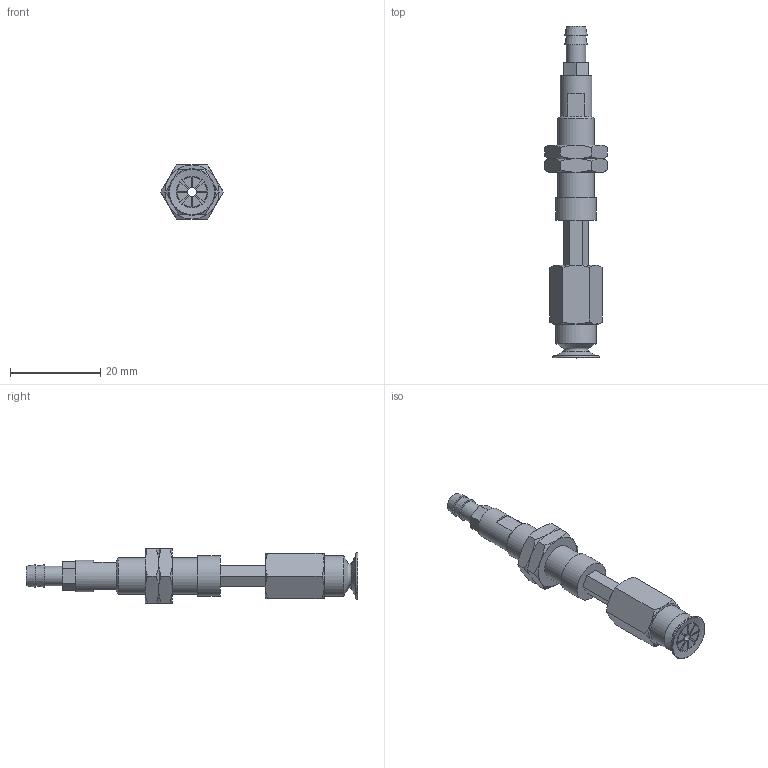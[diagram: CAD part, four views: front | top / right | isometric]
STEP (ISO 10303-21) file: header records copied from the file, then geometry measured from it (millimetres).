
FILE_DESCRIPTION(('STEP AP203'),'1');
FILE_NAME('-T.stp','2025-08-12T08:04:34',(' '),(' '),'Spatial InterOp 3D',' ',' ');
FILE_SCHEMA(('CONFIG_CONTROL_DESIGN'));
Length unit declared in the file: millimetre
Products named in the file (7): BNABPATH-10B-10-※-T; NAPATH-10A-10--F; Nut-10A-S; CONNECTOR-10A-3-T-PA; BPAG-10B-※; NAPATH-10A-10--M; ADAPTER
Assembly tree (7 placements, depth 2):
  BNABPATH-10B-10-※-T
    NAPATH-10A-10--F
    Nut-10A-S  x2
    CONNECTOR-10A-3-T-PA
    BPAG-10B-※
    NAPATH-10A-10--M
    ADAPTER
Bounding box: 13.86 x 73.5 x 12 mm (x, y, z)
Volume: 3697.1 mm3; surface area: 4567 mm2
Topology: 7 solids, 7 shells, 175 faces, 399 edges, 249 vertices
Faces by surface type: plane 89, cone 49, cylinder 26, torus 11
Full cylindrical faces by diameter (mm): 2 x3, 3 x1, 4 x2, 4.134 x1, 4.3 x1, 5 x1, 6 x2, 7 x2, 7.188 x2, 8 x1, 9 x2
Entity records: 4580 total; most frequent: CARTESIAN_POINT 964, DIRECTION 690, ORIENTED_EDGE 606, EDGE_CURVE 303, AXIS2_PLACEMENT_3D 275, EDGE_LOOP 214, VERTEX_POINT 213, FACE_OUTER_BOUND 180
